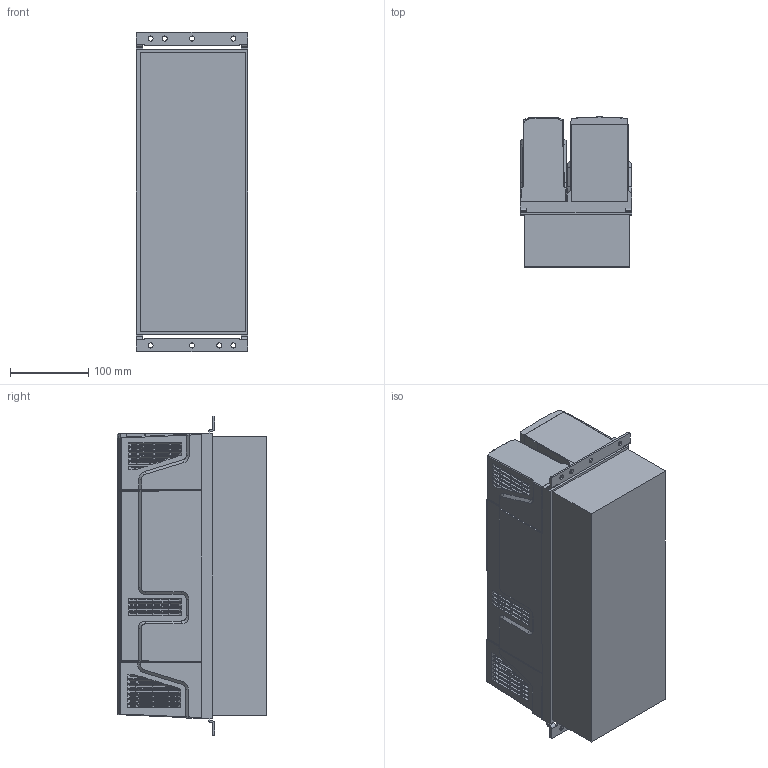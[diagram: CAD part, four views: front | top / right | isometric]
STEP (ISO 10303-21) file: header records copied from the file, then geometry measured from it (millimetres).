
FILE_DESCRIPTION (( 'STEP AP214' ), '1' );
FILE_NAME ('FDD305X_XXXXX_through hole_Export20221216.STEP', '2022-12-16T12:23:12', ( 'Windows-Benutzer' ), ( '' ), 'SwSTEP 2.0', 'SolidWorks 2020', '' );
FILE_SCHEMA (( 'AUTOMOTIVE_DESIGN' ));
Length unit declared in the file: millimetre
Products named in the file (1): FDD305X_XXXXX_through hole_Export20221216
Bounding box: 143 x 191.98 x 409 mm (x, y, z)
Volume: 4774799.5 mm3; surface area: 694695.2 mm2
Topology: 1 solids, 1 shells, 1679 faces, 5044 edges, 3265 vertices
Faces by surface type: plane 1029, bspline 359, cylinder 241, cone 50
Entity records: 93697 total; most frequent: CARTESIAN_POINT 38302, ORIENTED_EDGE 10088, DIRECTION 6479, EDGE_CURVE 5044, VERTEX_POINT 3265, LINE 3005, VECTOR 3005, EDGE_LOOP 1975
